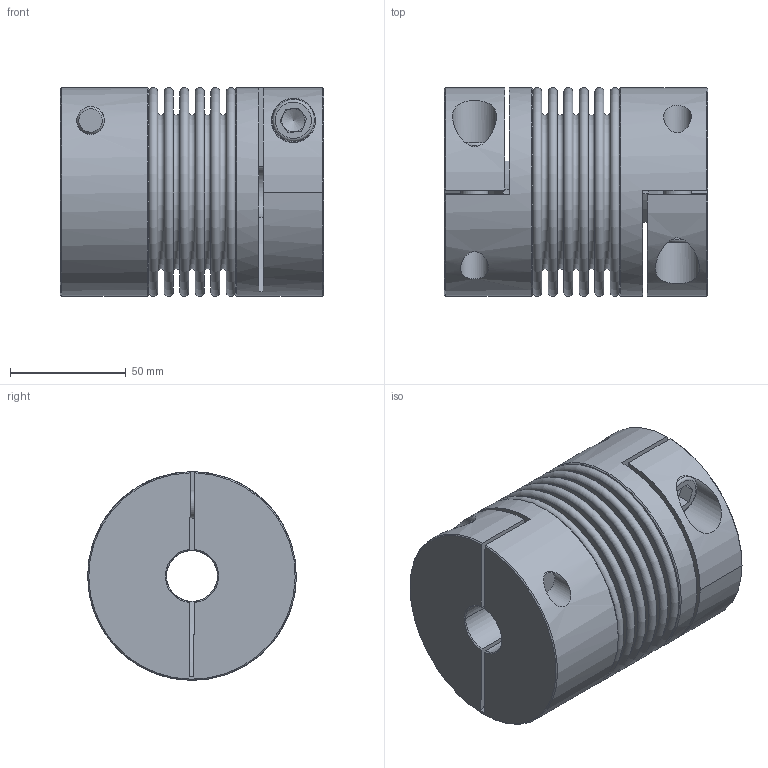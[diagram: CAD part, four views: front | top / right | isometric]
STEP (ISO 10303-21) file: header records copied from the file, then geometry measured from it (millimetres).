
FILE_DESCRIPTION( ( 'Unknown' ), '1' );
FILE_NAME( 'K:/Konstruktion/Homepage/KB4AL/KB4AL-200-113.stp', 'Unknown', ( 'Unknown' ), ( 'Unknown' ), 'PSStep 16.0.42', 'Unknown', ' ' );
FILE_SCHEMA( ( 'AUTOMOTIVE_DESIGN { 1 0 10303 214 1 1 1 1 }' ) );
Length unit declared in the file: millimetre
Products named in the file (4): Assem1; KN200_Standard_2; Socket Head Cap Screw_DIN_DIN 912 M12 x 35 --- 35N_4; BL200_Standard_0
Assembly tree (5 placements, depth 2):
  Assem1
    KN200_Standard_2  x2
    Socket Head Cap Screw_DIN_DIN 912 M12 x 35 --- 35N_4  x2
    BL200_Standard_0
Bounding box: 113.45 x 90 x 90 mm (x, y, z)
Volume: 452991.4 mm3; surface area: 157625.8 mm2
Topology: 5 solids, 5 shells, 141 faces, 295 edges, 190 vertices
Faces by surface type: plane 74, torus 29, cylinder 26, cone 12
Full cylindrical faces by diameter (mm): 12 x4, 12.5 x2, 18 x2, 19 x2, 22 x2, 79.2 x2, 80.4 x2, 90 x2
Entity records: 3293 total; most frequent: CARTESIAN_POINT 564, DIRECTION 421, ORIENTED_EDGE 274, AXIS2_PLACEMENT_3D 191, EDGE_LOOP 170, EDGE_CURVE 137, FACE_OUTER_BOUND 134, VERTEX_POINT 126
